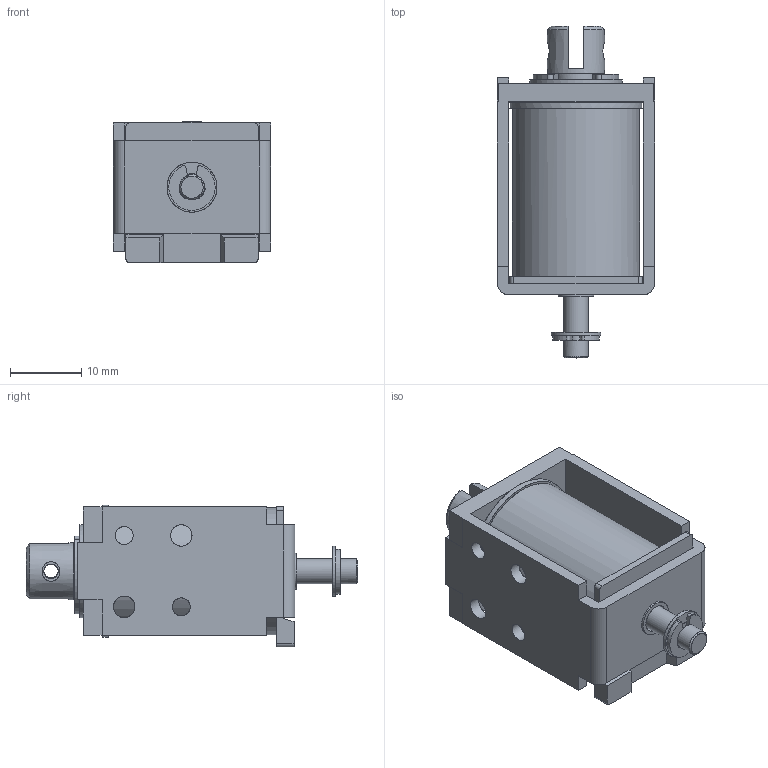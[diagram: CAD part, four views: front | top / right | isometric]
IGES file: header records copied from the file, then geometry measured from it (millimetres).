
Start section: SolidWorks IGES file using analytic representation for surfaces
Global section: file name: L:\カタログ\web用3Dデータ\SSAC0830\3D_SSAC0830\SSAC.IGS; native system: SolidWorks 2018; preprocessor: SolidWorks 2018; author: yakata; date: 190927.170805; units: millimetre
Bounding box: 22 x 46.5 x 19.85 mm (x, y, z)
Surface area: 7737.5 mm2 (no closed solid volume)
Topology: 0 solids, 0 shells, 157 faces, 2758 edges, 2731 vertices
Faces by surface type: bspline 93, revolution 64
